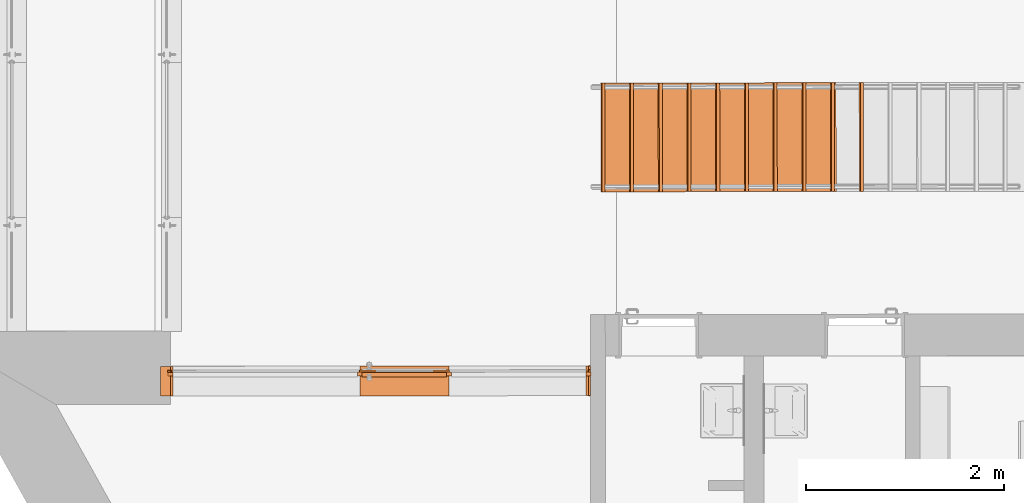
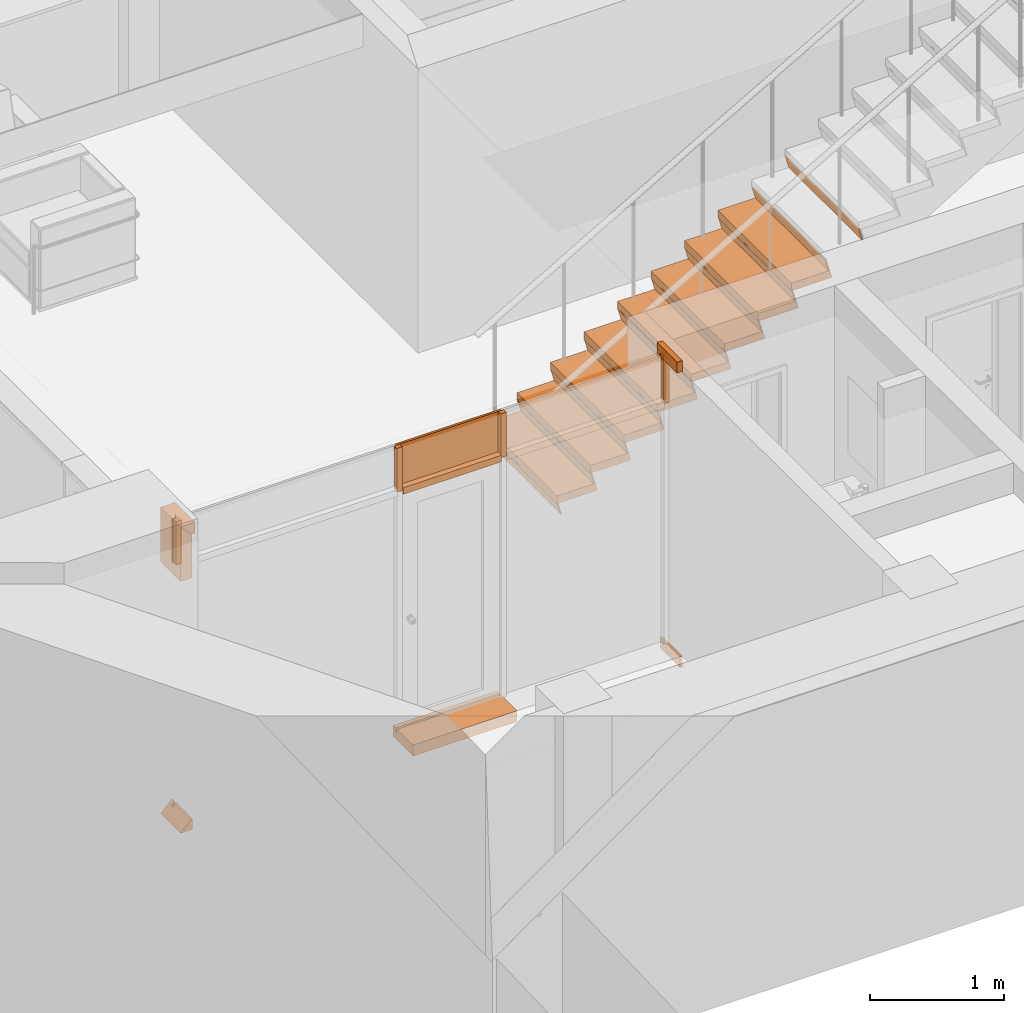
# One storey, part 118 of 127: 32 proxies, 2 elements without a shape of their own.
"""IFC2X3 building model written with IfcOpenShell, lengths in millimetres."""

from ifc_helpers import new_model, entity, si_unit, converted_unit, derived_unit, money_unit, direction, frame, origin_with_axes, place, context, subcontext, project, spatial, polyline, outline, extrude, clip, halfspace, faceted_brep, material, type_object, element, aggregate, save


model = new_model("IFC2X3")

# Units and contexts
model_context = context("Model", 3, precision=1e-05, world=origin_with_axes(), true_north=direction((0.0, 1.0)))
body_context = subcontext(model_context, "Body", "Model", "MODEL_VIEW")
ifc_project = project(units=[si_unit("LENGTHUNIT", "METRE", prefix="MILLI"), si_unit("AREAUNIT", "SQUARE_METRE"), si_unit("VOLUMEUNIT", "CUBIC_METRE"), converted_unit("PLANEANGLEUNIT", "DEGREE", entity("IfcPlaneAngleMeasure", 0.0174532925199), si_unit("PLANEANGLEUNIT", "RADIAN"), dimensions=[0, 0, 0, 0, 0, 0, 0]), si_unit("SOLIDANGLEUNIT", "STERADIAN"), money_unit("EUR"), converted_unit("TIMEUNIT", "Year", entity("IfcTimeMeasure", 31556926.0), si_unit("TIMEUNIT", "SECOND"), dimensions=[0, 0, 1, 0, 0, 0, 0]), si_unit("MASSUNIT", "GRAM", prefix="KILO"), si_unit("THERMODYNAMICTEMPERATUREUNIT", "DEGREE_CELSIUS"), si_unit("LUMINOUSINTENSITYUNIT", "LUMEN"), si_unit("ENERGYUNIT", "JOULE", prefix="MEGA"), derived_unit("THERMALCONDUCTANCEUNIT", [(si_unit("POWERUNIT", "WATT"), 1), (si_unit("LENGTHUNIT", "METRE"), -1), (si_unit("THERMODYNAMICTEMPERATUREUNIT", "KELVIN"), -1)]), derived_unit("SPECIFICHEATCAPACITYUNIT", [(si_unit("ENERGYUNIT", "JOULE"), 1), (si_unit("MASSUNIT", "GRAM", prefix="KILO"), -1), (si_unit("THERMODYNAMICTEMPERATUREUNIT", "KELVIN"), -1)]), derived_unit("MASSDENSITYUNIT", [(si_unit("MASSUNIT", "GRAM", prefix="KILO"), 1), (si_unit("VOLUMEUNIT", "CUBIC_METRE"), -1)])], contexts=[model_context])

# Site, building, storey
site_placement = place(None, origin_with_axes())
site = spatial("IfcSite", under=ifc_project, at=site_placement, Name="Site", CompositionType="ELEMENT")
building_placement = place(site_placement, origin_with_axes())
building = spatial("IfcBuilding", under=site, at=building_placement, Name="Building", CompositionType="ELEMENT")
storey_placement = place(building_placement, origin_with_axes())
storey = spatial("IfcBuildingStorey", under=building, at=storey_placement, Name="1 KORRUS", CompositionType="ELEMENT", Elevation=0.0)

# Stair, proxies
stair_placement = place(storey_placement, frame((24844.9039309, 41346.7944087, 0.0), z_axis=(0.0, 0.0, 1.0), x_axis=(1.0, 0.0, 0.0)))
stair = element("IfcStair", 1, at=stair_placement, inside=storey, Name="STAIR - 001", ShapeType="NOTDEFINED")
ifc_material_1 = material(Name="Betoon - Ol.Olev konstruktsioon")
building_element_proxy_type_1 = type_object("IfcBuildingElementProxyType", Name="SF RISER - 020", PredefinedType="NOTDEFINED")
proxy_1_placement = place(stair_placement, frame((0.438508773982, -549.999825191, 116.470588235), z_axis=(0.0, 0.0, 1.0), x_axis=(0.000797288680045, -0.999999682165, 0.0)))
proxy_1 = element("IfcBuildingElementProxy", 2, at=proxy_1_placement, type_object=building_element_proxy_type_1, material=ifc_material_1, Name=";  Objekti nimi: Riser 22", context=body_context, shape_type="Brep", body=[
    faceted_brep([(550.0, 0.0, 0.0), (550.0, 10.3527618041, 0.0), (-550.0, 10.3527618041, 0.0), (-550.0, 0.0, 0.0), (550.0, 31.2082000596, -116.470588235), (550.0, 41.5609618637, -116.470588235), (-550.0, 41.5609618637, -116.470588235), (-550.0, 31.2082000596, -116.470588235)], [[[0, 1, 2, 3]], [[0, 4, 5, 1]], [[1, 5, 6, 2]], [[3, 2, 6, 7]], [[4, 0, 3, 7]], [[5, 4, 7, 6]]]),
])
proxy_2_placement = place(stair_placement, frame((290.438416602, -549.768611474, 292.941176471), z_axis=(0.0, 0.0, 1.0), x_axis=(0.000797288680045, -0.999999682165, 0.0)))
proxy_2 = element("IfcBuildingElementProxy", 3, at=proxy_2_placement, type_object=building_element_proxy_type_1, material=ifc_material_1, Name=";  Objekti nimi: Riser 22", context=body_context, shape_type="Brep", body=[
    faceted_brep([(550.0, 0.0, 0.0), (550.0, 10.3527618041, 0.0), (-550.0, 10.3527618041, 0.0), (-550.0, 0.0, 0.0), (550.0, 31.2082000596, -116.470588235), (550.0, 41.5609618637, -116.470588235), (-550.0, 41.5609618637, -116.470588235), (-550.0, 31.2082000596, -116.470588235)], [[[0, 1, 2, 3]], [[0, 4, 5, 1]], [[1, 5, 6, 2]], [[3, 2, 6, 7]], [[4, 0, 3, 7]], [[5, 4, 7, 6]]]),
])
proxy_3_placement = place(stair_placement, frame((580.43832443, -549.537397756, 469.411764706), z_axis=(0.0, 0.0, 1.0), x_axis=(0.000797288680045, -0.999999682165, 0.0)))
proxy_3 = element("IfcBuildingElementProxy", 4, at=proxy_3_placement, type_object=building_element_proxy_type_1, material=ifc_material_1, Name=";  Objekti nimi: Riser 22", context=body_context, shape_type="Brep", body=[
    faceted_brep([(550.0, 0.0, 0.0), (550.0, 10.3527618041, 0.0), (-550.0, 10.3527618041, 0.0), (-550.0, 0.0, 0.0), (550.0, 31.2082000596, -116.470588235), (550.0, 41.5609618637, -116.470588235), (-550.0, 41.5609618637, -116.470588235), (-550.0, 31.2082000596, -116.470588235)], [[[0, 1, 2, 3]], [[0, 4, 5, 1]], [[1, 5, 6, 2]], [[3, 2, 6, 7]], [[4, 0, 3, 7]], [[5, 4, 7, 6]]]),
])
proxy_4_placement = place(stair_placement, frame((870.438232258, -549.306184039, 645.882352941), z_axis=(0.0, 0.0, 1.0), x_axis=(0.000797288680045, -0.999999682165, 0.0)))
proxy_4 = element("IfcBuildingElementProxy", 5, at=proxy_4_placement, type_object=building_element_proxy_type_1, material=ifc_material_1, Name=";  Objekti nimi: Riser 22", context=body_context, shape_type="Brep", body=[
    faceted_brep([(550.0, 0.0, 0.0), (550.0, 10.3527618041, 0.0), (-550.0, 10.3527618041, 0.0), (-550.0, 0.0, 0.0), (550.0, 31.2082000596, -116.470588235), (550.0, 41.5609618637, -116.470588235), (-550.0, 41.5609618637, -116.470588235), (-550.0, 31.2082000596, -116.470588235)], [[[0, 1, 2, 3]], [[0, 4, 5, 1]], [[1, 5, 6, 2]], [[3, 2, 6, 7]], [[4, 0, 3, 7]], [[5, 4, 7, 6]]]),
])
proxy_5_placement = place(stair_placement, frame((1160.43814009, -549.074970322, 822.352941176), z_axis=(0.0, 0.0, 1.0), x_axis=(0.000797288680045, -0.999999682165, 0.0)))
proxy_5 = element("IfcBuildingElementProxy", 6, at=proxy_5_placement, type_object=building_element_proxy_type_1, material=ifc_material_1, Name=";  Objekti nimi: Riser 22", context=body_context, shape_type="Brep", body=[
    faceted_brep([(550.0, 0.0, 0.0), (550.0, 10.3527618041, 0.0), (-550.0, 10.3527618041, 0.0), (-550.0, 0.0, 0.0), (550.0, 31.2082000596, -116.470588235), (550.0, 41.5609618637, -116.470588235), (-550.0, 41.5609618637, -116.470588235), (-550.0, 31.2082000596, -116.470588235)], [[[0, 1, 2, 3]], [[0, 4, 5, 1]], [[1, 5, 6, 2]], [[3, 2, 6, 7]], [[4, 0, 3, 7]], [[5, 4, 7, 6]]]),
])
proxy_6_placement = place(stair_placement, frame((1450.43804791, -548.843756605, 998.823529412), z_axis=(0.0, 0.0, 1.0), x_axis=(0.000797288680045, -0.999999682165, 0.0)))
proxy_6 = element("IfcBuildingElementProxy", 7, at=proxy_6_placement, type_object=building_element_proxy_type_1, material=ifc_material_1, Name=";  Objekti nimi: Riser 22", context=body_context, shape_type="Brep", body=[
    faceted_brep([(550.0, 0.0, 0.0), (550.0, 10.3527618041, 0.0), (-550.0, 10.3527618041, 0.0), (-550.0, 0.0, 0.0), (550.0, 31.2082000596, -116.470588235), (550.0, 41.5609618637, -116.470588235), (-550.0, 41.5609618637, -116.470588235), (-550.0, 31.2082000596, -116.470588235)], [[[0, 1, 2, 3]], [[0, 4, 5, 1]], [[1, 5, 6, 2]], [[3, 2, 6, 7]], [[4, 0, 3, 7]], [[5, 4, 7, 6]]]),
])
proxy_7_placement = place(stair_placement, frame((1740.43795574, -548.612542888, 1175.29411765), z_axis=(0.0, 0.0, 1.0), x_axis=(0.000797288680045, -0.999999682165, 0.0)))
proxy_7 = element("IfcBuildingElementProxy", 8, at=proxy_7_placement, type_object=building_element_proxy_type_1, material=ifc_material_1, Name=";  Objekti nimi: Riser 22", context=body_context, shape_type="Brep", body=[
    faceted_brep([(550.0, 0.0, 0.0), (550.0, 10.3527618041, 0.0), (-550.0, 10.3527618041, 0.0), (-550.0, 0.0, 0.0), (550.0, 31.2082000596, -116.470588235), (550.0, 41.5609618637, -116.470588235), (-550.0, 41.5609618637, -116.470588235), (-550.0, 31.2082000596, -116.470588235)], [[[0, 1, 2, 3]], [[0, 4, 5, 1]], [[1, 5, 6, 2]], [[3, 2, 6, 7]], [[4, 0, 3, 7]], [[5, 4, 7, 6]]]),
])
proxy_8_placement = place(stair_placement, frame((2030.43786357, -548.38132917, 1351.76470588), z_axis=(0.0, 0.0, 1.0), x_axis=(0.000797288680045, -0.999999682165, 0.0)))
proxy_8 = element("IfcBuildingElementProxy", 9, at=proxy_8_placement, type_object=building_element_proxy_type_1, material=ifc_material_1, Name=";  Objekti nimi: Riser 22", context=body_context, shape_type="Brep", body=[
    faceted_brep([(550.0, 0.0, 0.0), (550.0, 10.3527618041, 0.0), (-550.0, 10.3527618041, 0.0), (-550.0, 0.0, 0.0), (550.0, 31.2082000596, -116.470588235), (550.0, 41.5609618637, -116.470588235), (-550.0, 41.5609618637, -116.470588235), (-550.0, 31.2082000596, -116.470588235)], [[[0, 1, 2, 3]], [[0, 4, 5, 1]], [[1, 5, 6, 2]], [[3, 2, 6, 7]], [[4, 0, 3, 7]], [[5, 4, 7, 6]]]),
])
proxy_9_placement = place(stair_placement, frame((2320.4377714, -548.150115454, 1528.23529412), z_axis=(0.0, 0.0, 1.0), x_axis=(0.000797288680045, -0.999999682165, 0.0)))
proxy_9 = element("IfcBuildingElementProxy", 10, at=proxy_9_placement, type_object=building_element_proxy_type_1, material=ifc_material_1, Name=";  Objekti nimi: Riser 22", context=body_context, shape_type="Brep", body=[
    faceted_brep([(550.0, 0.0, 0.0), (550.0, 10.3527618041, 0.0), (-550.0, 10.3527618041, 0.0), (-550.0, 0.0, 0.0), (550.0, 31.2082000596, -116.470588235), (550.0, 41.5609618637, -116.470588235), (-550.0, 41.5609618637, -116.470588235), (-550.0, 31.2082000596, -116.470588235)], [[[0, 1, 2, 3]], [[0, 4, 5, 1]], [[1, 5, 6, 2]], [[3, 2, 6, 7]], [[4, 0, 3, 7]], [[5, 4, 7, 6]]]),
])
proxy_10_placement = place(stair_placement, frame((2610.43767923, -547.918901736, 1704.70588235), z_axis=(0.0, 0.0, 1.0), x_axis=(0.000797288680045, -0.999999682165, 0.0)))
proxy_10 = element("IfcBuildingElementProxy", 11, at=proxy_10_placement, type_object=building_element_proxy_type_1, material=ifc_material_1, Name=";  Objekti nimi: Riser 22", context=body_context, shape_type="Brep", body=[
    faceted_brep([(550.0, 0.0, 0.0), (550.0, 10.3527618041, 0.0), (-550.0, 10.3527618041, 0.0), (-550.0, 0.0, 0.0), (550.0, 31.2082000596, -116.470588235), (550.0, 41.5609618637, -116.470588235), (-550.0, 41.5609618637, -116.470588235), (-550.0, 31.2082000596, -116.470588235)], [[[0, 1, 2, 3]], [[0, 4, 5, 1]], [[1, 5, 6, 2]], [[3, 2, 6, 7]], [[4, 0, 3, 7]], [[5, 4, 7, 6]]]),
])
building_element_proxy_type_2 = type_object("IfcBuildingElementProxyType", Name="SF TREAD - 020", PredefinedType="NOTDEFINED")
proxy_11_placement = place(stair_placement, frame((0.438508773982, -549.999825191, 176.470588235), z_axis=(0.0, 0.0, 1.0), x_axis=(0.000797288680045, -0.999999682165, 0.0)))
proxy_11 = element("IfcBuildingElementProxy", 12, at=proxy_11_placement, type_object=building_element_proxy_type_2, material=ifc_material_1, Name=";  Objekti nimi: Tread 22", context=body_context, shape_type="Brep", body=[
    faceted_brep([(-550.0, 347.63791201, -70.0), (550.0, 347.637918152, -70.0), (550.0, 0.0, -70.0), (-550.0, 0.0, -70.0), (510.0, 40.0, -70.0), (510.0, 307.637917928, -70.0), (-510.0, 307.637912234, -70.0), (-510.0, 40.0, -70.0), (-550.00000018, 347.63791201, -60.0), (550.0, 347.63791201, -60.0), (550.0, 331.560960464, 0.0), (550.0, 0.0, 0.0), (-550.0, 0.0, 0.0), (-550.0, 331.560960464, 0.0), (510.0, 40.0, -60.0), (510.0, 307.637917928, -60.0), (-510.0, 307.637912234, -60.0), (-510.0, 40.0, -60.0)], [[[0, 1, 2, 3], [4, 5, 6, 7]], [[0, 8, 9, 1]], [[10, 11, 2, 1, 9]], [[11, 12, 3, 2]], [[12, 13, 8, 0, 3]], [[5, 4, 14, 15]], [[6, 5, 15, 16]], [[7, 6, 16, 17]], [[4, 7, 17, 14]], [[13, 10, 9, 8]], [[10, 13, 12, 11]], [[17, 16, 15, 14]]]),
])
proxy_12_placement = place(stair_placement, frame((290.438416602, -549.768611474, 352.941176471), z_axis=(0.0, 0.0, 1.0), x_axis=(0.000797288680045, -0.999999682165, 0.0)))
proxy_12 = element("IfcBuildingElementProxy", 13, at=proxy_12_placement, type_object=building_element_proxy_type_2, material=ifc_material_1, Name=";  Objekti nimi: Tread 22", context=body_context, shape_type="Brep", body=[
    faceted_brep([(-550.0, 347.637911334, -70.0), (550.0, 347.637917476, -70.0), (550.0, 0.0, -70.0), (-550.0, 0.0, -70.0), (510.0, 40.0, -70.0), (510.0, 307.637917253, -70.0), (-510.0, 307.637911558, -70.0), (-510.0, 40.0, -70.0), (-550.00000018, 347.637911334, -60.0), (550.0, 347.637911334, -60.0), (550.0, 331.560959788, 0.0), (550.0, 0.0, 0.0), (-550.0, 0.0, 0.0), (-550.0, 331.560959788, 0.0), (510.0, 40.0, -60.0), (510.0, 307.637917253, -60.0), (-510.0, 307.637911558, -60.0), (-510.0, 40.0, -60.0)], [[[0, 1, 2, 3], [4, 5, 6, 7]], [[0, 8, 9, 1]], [[10, 11, 2, 1, 9]], [[11, 12, 3, 2]], [[12, 13, 8, 0, 3]], [[5, 4, 14, 15]], [[6, 5, 15, 16]], [[7, 6, 16, 17]], [[4, 7, 17, 14]], [[13, 10, 9, 8]], [[10, 13, 12, 11]], [[17, 16, 15, 14]]]),
])
proxy_13_placement = place(stair_placement, frame((580.43832443, -549.537397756, 529.411764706), z_axis=(0.0, 0.0, 1.0), x_axis=(0.000797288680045, -0.999999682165, 0.0)))
proxy_13 = element("IfcBuildingElementProxy", 14, at=proxy_13_placement, type_object=building_element_proxy_type_2, material=ifc_material_1, Name=";  Objekti nimi: Tread 22", context=body_context, shape_type="Brep", body=[
    faceted_brep([(-550.0, 347.637910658, -70.0), (550.0, 347.6379168, -70.0), (550.0, 0.0, -70.0), (-550.0, 0.0, -70.0), (510.0, 40.0, -70.0), (510.0, 307.637916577, -70.0), (-510.0, 307.637910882, -70.0), (-510.0, 40.0, -70.0), (-550.00000018, 347.637910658, -60.0), (550.0, 347.637910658, -60.0), (550.0, 331.560959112, 0.0), (550.0, 0.0, 0.0), (-550.0, 0.0, 0.0), (-550.0, 331.560959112, 0.0), (510.0, 40.0, -60.0), (510.0, 307.637916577, -60.0), (-510.0, 307.637910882, -60.0), (-510.0, 40.0, -60.0)], [[[0, 1, 2, 3], [4, 5, 6, 7]], [[0, 8, 9, 1]], [[10, 11, 2, 1, 9]], [[11, 12, 3, 2]], [[12, 13, 8, 0, 3]], [[5, 4, 14, 15]], [[6, 5, 15, 16]], [[7, 6, 16, 17]], [[4, 7, 17, 14]], [[13, 10, 9, 8]], [[10, 13, 12, 11]], [[17, 16, 15, 14]]]),
])
proxy_14_placement = place(stair_placement, frame((870.438232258, -549.306184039, 705.882352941), z_axis=(0.0, 0.0, 1.0), x_axis=(0.000797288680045, -0.999999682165, 0.0)))
proxy_14 = element("IfcBuildingElementProxy", 15, at=proxy_14_placement, type_object=building_element_proxy_type_2, material=ifc_material_1, Name=";  Objekti nimi: Tread 22", context=body_context, shape_type="Brep", body=[
    faceted_brep([(-550.0, 347.637909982, -70.0), (550.0, 347.637916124, -70.0), (550.0, 0.0, -70.0), (-550.0, 0.0, -70.0), (510.0, 40.0, -70.0), (510.0, 307.6379159, -70.0), (-510.0, 307.637910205, -70.0), (-510.0, 40.0, -70.0), (-550.00000018, 347.637909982, -60.0), (550.0, 347.637909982, -60.0), (550.0, 331.560958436, 0.0), (550.0, 0.0, 0.0), (-550.0, 0.0, 0.0), (-550.0, 331.560958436, 0.0), (510.0, 40.0, -60.0), (510.0, 307.6379159, -60.0), (-510.0, 307.637910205, -60.0), (-510.0, 40.0, -60.0)], [[[0, 1, 2, 3], [4, 5, 6, 7]], [[0, 8, 9, 1]], [[10, 11, 2, 1, 9]], [[11, 12, 3, 2]], [[12, 13, 8, 0, 3]], [[5, 4, 14, 15]], [[6, 5, 15, 16]], [[7, 6, 16, 17]], [[4, 7, 17, 14]], [[13, 10, 9, 8]], [[10, 13, 12, 11]], [[17, 16, 15, 14]]]),
])
proxy_15_placement = place(stair_placement, frame((1160.43814009, -549.074970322, 882.352941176), z_axis=(0.0, 0.0, 1.0), x_axis=(0.000797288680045, -0.999999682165, 0.0)))
proxy_15 = element("IfcBuildingElementProxy", 16, at=proxy_15_placement, type_object=building_element_proxy_type_2, material=ifc_material_1, Name=";  Objekti nimi: Tread 22", context=body_context, shape_type="Brep", body=[
    faceted_brep([(-550.0, 347.637909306, -70.0), (550.0, 347.637915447, -70.0), (550.0, 0.0, -70.0), (-550.0, 0.0, -70.0), (510.0, 40.0, -70.0), (510.0, 307.637915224, -70.0), (-510.0, 307.637909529, -70.0), (-510.0, 40.0, -70.0), (-550.00000018, 347.637909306, -60.0), (550.0, 347.637909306, -60.0), (550.0, 331.56095776, 0.0), (550.0, 0.0, 0.0), (-550.0, 0.0, 0.0), (-550.0, 331.56095776, 0.0), (510.0, 40.0, -60.0), (510.0, 307.637915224, -60.0), (-510.0, 307.637909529, -60.0), (-510.0, 40.0, -60.0)], [[[0, 1, 2, 3], [4, 5, 6, 7]], [[0, 8, 9, 1]], [[10, 11, 2, 1, 9]], [[11, 12, 3, 2]], [[12, 13, 8, 0, 3]], [[5, 4, 14, 15]], [[6, 5, 15, 16]], [[7, 6, 16, 17]], [[4, 7, 17, 14]], [[13, 10, 9, 8]], [[10, 13, 12, 11]], [[17, 16, 15, 14]]]),
])
proxy_16_placement = place(stair_placement, frame((1450.43804791, -548.843756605, 1058.82352941), z_axis=(0.0, 0.0, 1.0), x_axis=(0.000797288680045, -0.999999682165, 0.0)))
proxy_16 = element("IfcBuildingElementProxy", 17, at=proxy_16_placement, type_object=building_element_proxy_type_2, material=ifc_material_1, Name=";  Objekti nimi: Tread 22", context=body_context, shape_type="Brep", body=[
    faceted_brep([(-550.0, 347.637908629, -70.0), (550.0, 347.637914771, -70.0), (550.0, 0.0, -70.0), (-550.0, 0.0, -70.0), (510.0, 40.0, -70.0), (510.0, 307.637914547, -70.0), (-510.0, 307.637908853, -70.0), (-510.0, 40.0, -70.0), (-550.00000018, 347.637908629, -60.0), (550.0, 347.637908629, -60.0), (550.0, 331.560957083, 0.0), (550.0, 0.0, 0.0), (-550.0, 0.0, 0.0), (-550.0, 331.560957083, 0.0), (510.0, 40.0, -60.0), (510.0, 307.637914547, -60.0), (-510.0, 307.637908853, -60.0), (-510.0, 40.0, -60.0)], [[[0, 1, 2, 3], [4, 5, 6, 7]], [[0, 8, 9, 1]], [[10, 11, 2, 1, 9]], [[11, 12, 3, 2]], [[12, 13, 8, 0, 3]], [[5, 4, 14, 15]], [[6, 5, 15, 16]], [[7, 6, 16, 17]], [[4, 7, 17, 14]], [[13, 10, 9, 8]], [[10, 13, 12, 11]], [[17, 16, 15, 14]]]),
])
proxy_17_placement = place(stair_placement, frame((1740.43795574, -548.612542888, 1235.29411765), z_axis=(0.0, 0.0, 1.0), x_axis=(0.000797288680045, -0.999999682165, 0.0)))
proxy_17 = element("IfcBuildingElementProxy", 18, at=proxy_17_placement, type_object=building_element_proxy_type_2, material=ifc_material_1, Name=";  Objekti nimi: Tread 22", context=body_context, shape_type="Brep", body=[
    faceted_brep([(-550.0, 347.637912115, -70.0), (550.0, 347.637918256, -70.0), (550.0, 0.0, -70.0), (-550.0, 0.0, -70.0), (510.0, 40.0, -70.0), (510.0, 307.637918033, -70.0), (-510.0, 307.637912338, -70.0), (-510.0, 40.0, -70.0), (-550.00000018, 347.637912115, -60.0), (550.0, 347.637912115, -60.0), (550.0, 331.560960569, 0.0), (550.0, 0.0, 0.0), (-550.0, 0.0, 0.0), (-550.0, 331.560960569, 0.0), (510.0, 40.0, -60.0), (510.0, 307.637918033, -60.0), (-510.0, 307.637912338, -60.0), (-510.0, 40.0, -60.0)], [[[0, 1, 2, 3], [4, 5, 6, 7]], [[0, 8, 9, 1]], [[10, 11, 2, 1, 9]], [[11, 12, 3, 2]], [[12, 13, 8, 0, 3]], [[5, 4, 14, 15]], [[6, 5, 15, 16]], [[7, 6, 16, 17]], [[4, 7, 17, 14]], [[13, 10, 9, 8]], [[10, 13, 12, 11]], [[17, 16, 15, 14]]]),
])
proxy_18_placement = place(stair_placement, frame((2030.43786357, -548.38132917, 1411.76470588), z_axis=(0.0, 0.0, 1.0), x_axis=(0.000797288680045, -0.999999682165, 0.0)))
proxy_18 = element("IfcBuildingElementProxy", 19, at=proxy_18_placement, type_object=building_element_proxy_type_2, material=ifc_material_1, Name=";  Objekti nimi: Tread 22", context=body_context, shape_type="Brep", body=[
    faceted_brep([(-550.0, 347.637911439, -70.0), (550.0, 347.63791758, -70.0), (550.0, 0.0, -70.0), (-550.0, 0.0, -70.0), (510.0, 40.0, -70.0), (510.0, 307.637917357, -70.0), (-510.0, 307.637911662, -70.0), (-510.0, 40.0, -70.0), (-550.00000018, 347.637911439, -60.0), (550.0, 347.637911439, -60.0), (550.0, 331.560959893, 0.0), (550.0, 0.0, 0.0), (-550.0, 0.0, 0.0), (-550.0, 331.560959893, 0.0), (510.0, 40.0, -60.0), (510.0, 307.637917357, -60.0), (-510.0, 307.637911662, -60.0), (-510.0, 40.0, -60.0)], [[[0, 1, 2, 3], [4, 5, 6, 7]], [[0, 8, 9, 1]], [[10, 11, 2, 1, 9]], [[11, 12, 3, 2]], [[12, 13, 8, 0, 3]], [[5, 4, 14, 15]], [[6, 5, 15, 16]], [[7, 6, 16, 17]], [[4, 7, 17, 14]], [[13, 10, 9, 8]], [[10, 13, 12, 11]], [[17, 16, 15, 14]]]),
])
aggregate(stair, [proxy_1, proxy_2, proxy_3, proxy_4, proxy_5, proxy_6, proxy_7, proxy_8, proxy_9, proxy_10, proxy_11, proxy_12, proxy_13, proxy_14, proxy_15, proxy_16, proxy_17, proxy_18])

# Curtain wall, proxies
curtain_wall_type = type_object("IfcCurtainWallType", Name="SKS-2", PredefinedType="NOTDEFINED")
curtain_wall_placement = place(storey_placement, frame((24016.5741865, 38437.6405543, -0.000166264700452), z_axis=(0.0, 0.0, 1.0), x_axis=(1.0, 0.0, 0.0)))
curtain_wall = element("IfcCurtainWall", 20, at=curtain_wall_placement, inside=storey, type_object=curtain_wall_type, Name="Klaassein")
ifc_material_2 = material(Name="Klaas (1)")
building_element_proxy_type_3 = type_object("IfcBuildingElementProxyType", Name="Panel-Main-422", PredefinedType="NOTDEFINED")
proxy_19_placement = place(curtain_wall_placement, frame((714.631553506, 0.57107189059, 2400.0), z_axis=(0.0, 0.0, 1.0), x_axis=(0.999999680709, 0.000799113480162, 0.0)))
proxy_19 = element("IfcBuildingElementProxy", 21, at=proxy_19_placement, type_object=building_element_proxy_type_3, material=ifc_material_2, Name="Klaas (1);  Objekti nimi: Built-in CW Panel", context=body_context, shape_type="SweptSolid", body=[
    extrude(outline(polyline([(-9.63178107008, -230.0), (9.63178168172, -230.0), (9.63178168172, 194.999999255), (-9.63178747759, 194.999999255), (-9.63178747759, 200.0), (-14.631781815, 200.0), (-14.631781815, -200.000001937), (-9.63178107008, -200.000001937), (-9.63178107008, -230.0)])), frame((-1.13686837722e-10, -10.0000000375, 0.0), z_axis=(0.0, 1.0, 0.0), x_axis=(1.0, 0.0, 0.0)), (0.0, 0.0, 1.0), 20.0000000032),
])
building_element_proxy_type_4 = type_object("IfcBuildingElementProxyType", Name="Panel-Main-424", PredefinedType="NOTDEFINED")
proxy_20_placement = place(curtain_wall_placement, frame((-3515.69521587, -2.80944034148, 2400.0), z_axis=(0.0, 0.0, 1.0), x_axis=(0.999999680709, 0.000799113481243, 0.0)))
proxy_20 = element("IfcBuildingElementProxy", 22, at=proxy_20_placement, type_object=building_element_proxy_type_4, material=ifc_material_2, Name="Klaas (1);  Objekti nimi: Built-in CW Panel", context=body_context, shape_type="SweptSolid", body=[
    extrude(outline(polyline([(-0.696340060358, -230.0), (0.696337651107, -230.0), (0.696337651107, -200.000001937), (5.69633839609, -200.000001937), (5.69633839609, 200.0), (0.696337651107, 200.0), (0.696337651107, 194.999999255), (-0.696340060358, 194.999999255), (-0.696340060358, 200.0), (-30.6963381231, 200.0), (-30.6963381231, -200.000001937), (-0.696340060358, -200.000001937), (-0.696340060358, -230.0)])), frame((0.0, -10.0000000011, 0.0), z_axis=(0.0, 1.0, 0.0), x_axis=(1.0, 0.0, 0.0)), (0.0, 0.0, 1.0), 20.0000000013),
])
building_element_proxy_type_5 = type_object("IfcBuildingElementProxyType", Name="Panel-Main-421", PredefinedType="NOTDEFINED")
proxy_21_placement = place(curtain_wall_placement, frame((-1154.99963122, -0.922976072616, 2400.0), z_axis=(0.0, 0.0, 1.0), x_axis=(0.999999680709, 0.000799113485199, 0.0)))
proxy_21 = element("IfcBuildingElementProxy", 23, at=proxy_21_placement, type_object=building_element_proxy_type_5, material=ifc_material_2, Name="Klaas (1);  Objekti nimi: Built-in CW Panel", context=body_context, shape_type="SweptSolid", body=[
    extrude(outline(polyline([(-455.0, -200.000005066), (455.0, -200.000005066), (455.0, 200.0), (449.99999553, 200.0), (449.99999553, 194.99999553), (-449.999995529, 194.99999553), (-449.999995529, 200.0), (-455.0, 200.0), (-455.0, -200.000005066)])), frame((1.13686837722e-10, -9.9999999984, 0.0), z_axis=(0.0, 1.0, 0.0), x_axis=(1.0, 0.0, 0.0)), (0.0, 0.0, 1.0), 20.0000000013),
])
ifc_material_3 = material(Name="Alumiinium (1)")
building_element_proxy_type_6 = type_object("IfcBuildingElementProxyType", Name="Frame-Bnd-461", PredefinedType="NOTDEFINED")
proxy_22_placement = place(curtain_wall_placement, frame((-3514.99887769, -2.80888388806, 2600.0), z_axis=(-0.999999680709, -0.000799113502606, 0.0), x_axis=(0.0, 0.0, 1.0)))
proxy_22 = element("IfcBuildingElementProxy", 24, at=proxy_22_placement, type_object=building_element_proxy_type_6, material=ifc_material_3, Name="Alumiinium (1);  Objekti nimi: Built-in Frame", context=body_context, shape_type="Clipping", body=[
    clip(extrude(outline(polyline([(-10.0000000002, -30.0), (-10.0000000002, 0.0), (-250.0, 0.0), (-250.0, -100.0), (50.0000000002, -100.0), (50.0000000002, 0.0), (9.99999999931, 0.0), (9.99999999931, -30.0), (-10.0000000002, -30.0)])), frame((0.0, 0.0, -25.0000000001), z_axis=(0.0, 0.0, 1.0), x_axis=(0.0, 1.0, 0.0)), (0.0, 0.0, 1.0), 126.392676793), halfspace(frame((-0.696338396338, 0.0, 0.696338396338), z_axis=(0.707106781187, 0.0, -0.707106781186), x_axis=(0.0, 1.0, 0.0)), True)),
])
building_element_proxy_type_7 = type_object("IfcBuildingElementProxyType", Name="Frame-Bnd-456", PredefinedType="NOTDEFINED")
proxy_23_placement = place(curtain_wall_placement, frame((-704.9997749, -0.563375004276, 0.0), z_axis=(-0.999999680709, -0.000799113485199, 0.0), x_axis=(0.0, 0.0, 1.0)))
proxy_23 = element("IfcBuildingElementProxy", 25, at=proxy_23_placement, type_object=building_element_proxy_type_7, material=ifc_material_3, Name="Alumiinium (1);  Objekti nimi: Built-in Frame", context=body_context, shape_type="SweptSolid", body=[
    extrude(outline(polyline([(-9.99999999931, 30.0), (10.0000000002, 30.0), (10.0000000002, 0.0), (50.0000000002, 0.0), (50.0000000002, 100.0), (-249.999999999, 100.0), (-249.999999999, 0.0), (-9.99999999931, 0.0), (-9.99999999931, 30.0)])), frame((0.0, 0.0, -5.68434188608e-10), z_axis=(0.0, 0.0, 1.0), x_axis=(0.0, 1.0, 0.0)), (0.0, 0.0, 1.0), 900.000000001),
])
building_element_proxy_type_8 = type_object("IfcBuildingElementProxyType", Name="Frame-Mll-659", PredefinedType="NOTDEFINED")
proxy_24_placement = place(curtain_wall_placement, frame((-3514.99887769, -2.80888388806, 2200.0), z_axis=(0.0, 0.0, 1.0), x_axis=(0.999999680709, 0.000799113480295, 0.0)))
proxy_24 = element("IfcBuildingElementProxy", 26, at=proxy_24_placement, type_object=building_element_proxy_type_8, material=ifc_material_3, Name="Alumiinium (1);  Objekti nimi: Frame 22", context=body_context, shape_type="SweptSolid", body=[
    extrude(outline(polyline([(-24.9920008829, -10.0199746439), (-24.9600363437, -50.0199618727), (25.0399476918, -49.980006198), (25.0079831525, -9.98001897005), (-24.9920008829, -10.0199746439)])), frame((0.0, 0.0, 0.0), z_axis=(0.0, 0.0, 1.0), x_axis=(0.999999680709, -0.000799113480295, 0.0)), (0.0, 0.0, 1.0), 400.0),
])
building_element_proxy_type_9 = type_object("IfcBuildingElementProxyType", Name="Frame-Bnd-454", PredefinedType="NOTDEFINED")
proxy_25_placement = place(curtain_wall_placement, frame((724.263332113, 0.578768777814, 0.0), z_axis=(-0.999999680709, -0.000799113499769, 0.0), x_axis=(0.0, 0.0, 1.0)))
proxy_25 = element("IfcBuildingElementProxy", 27, at=proxy_25_placement, type_object=building_element_proxy_type_9, material=ifc_material_3, Name="Alumiinium (1);  Objekti nimi: Built-in Frame", context=body_context, shape_type="SweptSolid", body=[
    extrude(outline(polyline([(-10.0000000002, 30.0), (10.0000000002, 30.0), (10.0000000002, 0.0), (50.0000000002, 0.0), (50.0000000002, 100.0), (-250.000000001, 100.0), (-250.000000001, 0.0), (-10.0000000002, 0.0), (-10.0000000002, 30.0)])), frame((0.0, 0.0, 0.0), z_axis=(0.0, 0.0, 1.0), x_axis=(0.0, 1.0, 0.0)), (0.0, 0.0, 1.0), 19.2635633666),
])
building_element_proxy_type_10 = type_object("IfcBuildingElementProxyType", Name="Frame-Bnd-458", PredefinedType="NOTDEFINED")
proxy_26_placement = place(curtain_wall_placement, frame((-3514.99887769, -2.80888388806, 0.0), z_axis=(-0.999999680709, -0.000799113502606, 0.0), x_axis=(0.0, 0.0, 1.0)))
proxy_26 = element("IfcBuildingElementProxy", 28, at=proxy_26_placement, type_object=building_element_proxy_type_10, material=ifc_material_3, Name="Alumiinium (1);  Objekti nimi: Built-in Frame", context=body_context, shape_type="Clipping", body=[
    clip(extrude(outline(polyline([(-10.0000000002, 30.0), (9.99999999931, 30.0), (9.99999999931, 0.0), (50.0000000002, 0.0), (50.0000000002, 100.0), (-250.0, 100.0), (-250.0, 0.0), (-10.0000000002, 0.0), (-10.0000000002, 30.0)])), frame((0.0, 0.0, -3.52429196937e-09), z_axis=(0.0, 0.0, 1.0), x_axis=(0.0, 1.0, 0.0)), (0.0, 0.0, 1.0), 101.392676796), halfspace(frame((0.696338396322, 0.0, 0.696338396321), z_axis=(-0.707106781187, 0.0, -0.707106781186), x_axis=(0.0, 1.0, 0.0)), True)),
])
building_element_proxy_type_11 = type_object("IfcBuildingElementProxyType", Name="Frame-Mll-631", PredefinedType="NOTDEFINED")
proxy_27_placement = place(curtain_wall_placement, frame((704.9997749, 0.563375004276, 2200.0), z_axis=(0.0, 0.0, 1.0), x_axis=(0.999999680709, 0.000799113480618, 0.0)))
proxy_27 = element("IfcBuildingElementProxy", 29, at=proxy_27_placement, type_object=building_element_proxy_type_11, material=ifc_material_3, Name="Alumiinium (1);  Objekti nimi: Frame 22", context=body_context, shape_type="SweptSolid", body=[
    extrude(outline(polyline([(-24.9920008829, -10.0199746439), (-24.9600363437, -50.0199618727), (25.0399476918, -49.980006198), (25.0079831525, -9.98001897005), (-24.9920008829, -10.0199746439)])), frame((0.0, 0.0, 0.0), z_axis=(0.0, 0.0, 1.0), x_axis=(0.999999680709, -0.000799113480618, 0.0)), (0.0, 0.0, 1.0), 400.0),
])
building_element_proxy_type_12 = type_object("IfcBuildingElementProxyType", Name="Frame-Mll-632", PredefinedType="NOTDEFINED")
proxy_28_placement = place(curtain_wall_placement, frame((-704.9997749, -0.563375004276, 2200.0), z_axis=(0.0, 0.0, 1.0), x_axis=(0.999999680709, 0.000799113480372, 0.0)))
proxy_28 = element("IfcBuildingElementProxy", 30, at=proxy_28_placement, type_object=building_element_proxy_type_12, material=ifc_material_3, Name="Alumiinium (1);  Objekti nimi: Frame 22", context=body_context, shape_type="SweptSolid", body=[
    extrude(outline(polyline([(-24.9920008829, -10.0199746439), (-24.9600363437, -50.0199618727), (25.0399476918, -49.980006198), (25.0079831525, -9.98001897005), (-24.9920008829, -10.0199746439)])), frame((0.0, 0.0, 0.0), z_axis=(0.0, 0.0, 1.0), x_axis=(0.999999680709, -0.000799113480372, 0.0)), (0.0, 0.0, 1.0), 400.0),
])
building_element_proxy_type_13 = type_object("IfcBuildingElementProxyType", Name="Frame-Mll-633", PredefinedType="NOTDEFINED")
proxy_29_placement = place(curtain_wall_placement, frame((-1604.99948754, -1.28257714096, 2200.0), z_axis=(0.0, 0.0, 1.0), x_axis=(0.999999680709, 0.000799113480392, 0.0)))
proxy_29 = element("IfcBuildingElementProxy", 31, at=proxy_29_placement, type_object=building_element_proxy_type_13, material=ifc_material_3, Name="Alumiinium (1);  Objekti nimi: Frame 22", context=body_context, shape_type="SweptSolid", body=[
    extrude(outline(polyline([(-24.9920008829, -10.0199746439), (-24.9600363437, -50.0199618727), (25.0399476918, -49.980006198), (25.0079831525, -9.98001897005), (-24.9920008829, -10.0199746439)])), frame((0.0, 0.0, 0.0), z_axis=(0.0, 0.0, 1.0), x_axis=(0.999999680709, -0.000799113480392, 0.0)), (0.0, 0.0, 1.0), 400.0),
])
building_element_proxy_type_14 = type_object("IfcBuildingElementProxyType", Name="Frame-Bnd-465", PredefinedType="NOTDEFINED")
proxy_30_placement = place(curtain_wall_placement, frame((724.263332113, 0.578768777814, 2600.0), z_axis=(-0.999999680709, -0.000799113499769, 0.0), x_axis=(0.0, 0.0, 1.0)))
proxy_30 = element("IfcBuildingElementProxy", 32, at=proxy_30_placement, type_object=building_element_proxy_type_14, material=ifc_material_3, Name="Alumiinium (1);  Objekti nimi: Built-in Frame", context=body_context, shape_type="SweptSolid", body=[
    extrude(outline(polyline([(-10.0000000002, -30.0), (-10.0000000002, 0.0), (-250.000000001, 0.0), (-250.000000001, -100.0), (49.9999999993, -100.0), (49.9999999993, 0.0), (9.99999999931, 0.0), (9.99999999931, -30.0), (-10.0000000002, -30.0)])), frame((0.0, 0.0, 0.0), z_axis=(0.0, 0.0, 1.0), x_axis=(0.0, 1.0, 0.0)), (0.0, 0.0, 1.0), 44.2635633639),
])
building_element_proxy_type_15 = type_object("IfcBuildingElementProxyType", Name="Frame-Bnd-460", PredefinedType="NOTDEFINED")
proxy_31_placement = place(curtain_wall_placement, frame((-3516.39155404, -2.80999679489, 2200.0), z_axis=(0.0, 0.0, 1.0), x_axis=(0.999999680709, 0.000799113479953, 0.0)))
proxy_31 = element("IfcBuildingElementProxy", 33, at=proxy_31_placement, type_object=building_element_proxy_type_15, material=ifc_material_3, Name="Alumiinium (1);  Objekti nimi: Built-in Frame", context=body_context, shape_type="Clipping", body=[
    clip(extrude(outline(polyline([(-29.9919992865, -10.0239702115), (-30.0079815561, 9.97602340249), (-0.00799113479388, 9.99999680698), (-0.0399556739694, 49.9999840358), (-100.039923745, 49.9200726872), (-99.8001896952, -250.079831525), (0.199778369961, -249.999920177), (0.00799113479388, -9.99999680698), (-29.9919992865, -10.0239702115)])), frame((0.0, 0.0, 0.0), z_axis=(0.0, 0.0, 1.0), x_axis=(0.999999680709, -0.000799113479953, 0.0)), (0.0, 0.0, 1.0), 500.0), halfspace(frame((200.000000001, 4.14544827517e-09, 199.999999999), z_axis=(-0.707106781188, 0.0, -0.707106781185), x_axis=(0.0, 1.0, 0.0)), True)),
])
building_element_proxy_type_16 = type_object("IfcBuildingElementProxyType", Name="Frame-Trs-807", PredefinedType="NOTDEFINED")
proxy_32_placement = place(curtain_wall_placement, frame((-704.9997749, -0.563375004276, 2200.0), z_axis=(-0.999999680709, -0.000799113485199, 0.0), x_axis=(0.0, 0.0, 1.0)))
proxy_32 = element("IfcBuildingElementProxy", 34, at=proxy_32_placement, type_object=building_element_proxy_type_16, material=ifc_material_3, Name="Alumiinium (1);  Objekti nimi: Built-in Butt-glazed Frame", context=body_context, shape_type="SweptSolid", body=[
    extrude(outline(polyline([(-59.9999999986, -30.0), (-10.0000000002, -30.0), (-10.0000000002, 30.0), (-59.9999999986, 30.0), (-59.9999999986, -30.0)])), frame((0.0, 9.09494701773e-10, 25.0000000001), z_axis=(0.0, 0.0, 1.0), x_axis=(0.0, 1.0, 0.0)), (0.0, 0.0, 1.0), 850.0),
])
aggregate(curtain_wall, [proxy_19, proxy_20, proxy_21, proxy_22, proxy_23, proxy_24, proxy_25, proxy_26, proxy_27, proxy_28, proxy_29, proxy_30, proxy_31, proxy_32])

save(model, "model.ifc")
